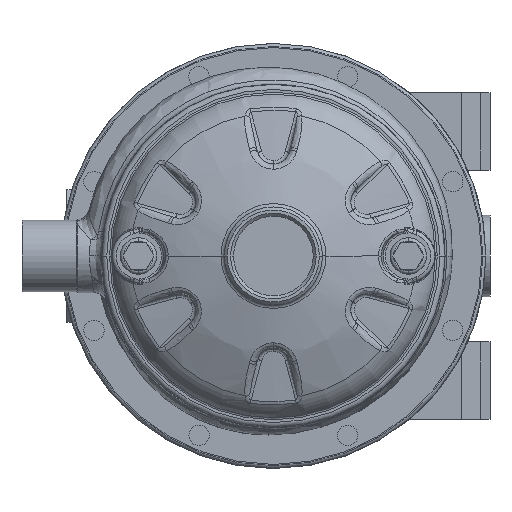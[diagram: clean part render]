
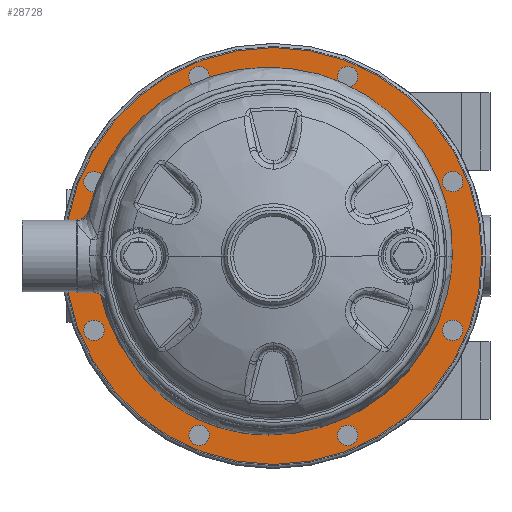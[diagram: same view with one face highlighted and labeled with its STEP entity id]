
A CAD part, left-side view. The second image highlights one B-rep face of the part: STEP entity #28728.
In plain terms, the highlighted planar face has unit normal (-1, 0, 0).
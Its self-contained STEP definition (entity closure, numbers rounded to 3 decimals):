
#20186=CARTESIAN_POINT('',(33.5,0.,
0.));
#20187=DIRECTION('',(1.,0.,0.));
#20188=DIRECTION('',(0.,-1.,0.));
#20189=AXIS2_PLACEMENT_3D('',#20186,#20187,#20188);
#20194=CARTESIAN_POINT('',(33.5,0.,
0.));
#20195=DIRECTION('',(1.,0.,0.));
#20196=DIRECTION('',(0.,1.,0.));
#20197=AXIS2_PLACEMENT_3D('',#20194,#20195,#20196);
#20202=CARTESIAN_POINT('',(33.5,0.,0.));
#20203=DIRECTION('',(-1.,0.,0.));
#20204=DIRECTION('',(0.,1.,0.));
#20205=AXIS2_PLACEMENT_3D('',#20202,#20203,#20204);
#20210=CARTESIAN_POINT('',(33.5,0.,0.));
#20211=DIRECTION('',(-1.,0.,0.));
#20212=DIRECTION('',(0.,-1.,0.));
#20213=AXIS2_PLACEMENT_3D('',#20210,#20211,#20212);
#20218=CARTESIAN_POINT('',(33.5,87.769,36.355));
#20219=DIRECTION('',(-1.,0.,0.));
#20220=DIRECTION('',(0.,0.,1.));
#20221=AXIS2_PLACEMENT_3D('',#20218,#20219,#20220);
#20226=CARTESIAN_POINT('',(33.5,87.769,36.355));
#20227=DIRECTION('',(-1.,0.,0.));
#20228=DIRECTION('',(0.,0.,-1.));
#20229=AXIS2_PLACEMENT_3D('',#20226,#20227,#20228);
#20234=CARTESIAN_POINT('',(33.5,36.355,87.769));
#20235=DIRECTION('',(-1.,0.,0.));
#20236=DIRECTION('',(0.,-0.707,0.707));
#20237=AXIS2_PLACEMENT_3D('',#20234,#20235,#20236);
#20242=CARTESIAN_POINT('',(33.5,36.355,87.769));
#20243=DIRECTION('',(-1.,0.,0.));
#20244=DIRECTION('',(0.,0.707,-0.707));
#20245=AXIS2_PLACEMENT_3D('',#20242,#20243,#20244);
#20250=CARTESIAN_POINT('',(33.5,-36.355,87.769));
#20251=DIRECTION('',(-1.,0.,0.));
#20252=DIRECTION('',(0.,-1.,0.));
#20253=AXIS2_PLACEMENT_3D('',#20250,#20251,#20252);
#20258=CARTESIAN_POINT('',(33.5,-36.355,87.769));
#20259=DIRECTION('',(-1.,0.,0.));
#20260=DIRECTION('',(0.,1.,0.));
#20261=AXIS2_PLACEMENT_3D('',#20258,#20259,#20260);
#20266=CARTESIAN_POINT('',(33.5,-87.769,36.355));
#20267=DIRECTION('',(-1.,0.,0.));
#20268=DIRECTION('',(0.,-0.707,-0.707));
#20269=AXIS2_PLACEMENT_3D('',#20266,#20267,#20268);
#20274=CARTESIAN_POINT('',(33.5,-87.769,36.355));
#20275=DIRECTION('',(-1.,0.,0.));
#20276=DIRECTION('',(0.,0.707,0.707));
#20277=AXIS2_PLACEMENT_3D('',#20274,#20275,#20276);
#20282=CARTESIAN_POINT('',(33.5,-87.769,-36.355));
#20283=DIRECTION('',(-1.,0.,0.));
#20284=DIRECTION('',(0.,0.,-1.));
#20285=AXIS2_PLACEMENT_3D('',#20282,#20283,#20284);
#20290=CARTESIAN_POINT('',(33.5,-87.769,-36.355));
#20291=DIRECTION('',(-1.,0.,0.));
#20292=DIRECTION('',(0.,0.,1.));
#20293=AXIS2_PLACEMENT_3D('',#20290,#20291,#20292);
#20298=CARTESIAN_POINT('',(33.5,-36.355,-87.769));
#20299=DIRECTION('',(-1.,0.,0.));
#20300=DIRECTION('',(0.,0.707,-0.707));
#20301=AXIS2_PLACEMENT_3D('',#20298,#20299,#20300);
#20306=CARTESIAN_POINT('',(33.5,-36.355,-87.769));
#20307=DIRECTION('',(-1.,0.,0.));
#20308=DIRECTION('',(0.,-0.707,0.707));
#20309=AXIS2_PLACEMENT_3D('',#20306,#20307,#20308);
#20314=CARTESIAN_POINT('',(33.5,36.355,-87.769));
#20315=DIRECTION('',(-1.,0.,0.));
#20316=DIRECTION('',(0.,1.,0.));
#20317=AXIS2_PLACEMENT_3D('',#20314,#20315,#20316);
#20322=CARTESIAN_POINT('',(33.5,36.355,-87.769));
#20323=DIRECTION('',(-1.,0.,0.));
#20324=DIRECTION('',(0.,-1.,0.));
#20325=AXIS2_PLACEMENT_3D('',#20322,#20323,#20324);
#20330=CARTESIAN_POINT('',(33.5,87.769,-36.355));
#20331=DIRECTION('',(-1.,0.,0.));
#20332=DIRECTION('',(0.,0.707,0.707));
#20333=AXIS2_PLACEMENT_3D('',#20330,#20331,#20332);
#20338=CARTESIAN_POINT('',(33.5,87.769,-36.355));
#20339=DIRECTION('',(-1.,0.,0.));
#20340=DIRECTION('',(0.,-0.707,-0.707));
#20341=AXIS2_PLACEMENT_3D('',#20338,#20339,#20340);
#27960=CARTESIAN_POINT('',(33.5,-86.8,
0.));
#27961=CARTESIAN_POINT('',(33.5,86.8,
0.));
#27962=VERTEX_POINT('',#27960);
#27963=VERTEX_POINT('',#27961);
#27964=CARTESIAN_POINT('',(33.5,102.,0.));
#27965=CARTESIAN_POINT('',(33.5,-102.,0.));
#27966=VERTEX_POINT('',#27964);
#27967=VERTEX_POINT('',#27965);
#27984=CARTESIAN_POINT('',(33.5,87.769,41.355));
#27985=CARTESIAN_POINT('',(33.5,87.769,31.355));
#27986=VERTEX_POINT('',#27984);
#27987=VERTEX_POINT('',#27985);
#28016=CARTESIAN_POINT('',(33.5,32.819,91.304));
#28017=VERTEX_POINT('',#28016);
#28018=CARTESIAN_POINT('',(33.5,39.89,84.233));
#28019=VERTEX_POINT('',#28018);
#28032=CARTESIAN_POINT('',(33.5,-41.355,87.769));
#28033=VERTEX_POINT('',#28032);
#28034=CARTESIAN_POINT('',(33.5,-31.355,87.769));
#28035=VERTEX_POINT('',#28034);
#28048=CARTESIAN_POINT('',(33.5,-91.304,32.819));
#28049=VERTEX_POINT('',#28048);
#28050=CARTESIAN_POINT('',(33.5,-84.233,39.89));
#28051=VERTEX_POINT('',#28050);
#28064=CARTESIAN_POINT('',(33.5,-87.769,-41.355));
#28065=VERTEX_POINT('',#28064);
#28066=CARTESIAN_POINT('',(33.5,-87.769,-31.355));
#28067=VERTEX_POINT('',#28066);
#28080=CARTESIAN_POINT('',(33.5,-32.819,-91.304));
#28081=VERTEX_POINT('',#28080);
#28082=CARTESIAN_POINT('',(33.5,-39.89,-84.233));
#28083=VERTEX_POINT('',#28082);
#28096=CARTESIAN_POINT('',(33.5,41.355,-87.769));
#28097=VERTEX_POINT('',#28096);
#28098=CARTESIAN_POINT('',(33.5,31.355,-87.769));
#28099=VERTEX_POINT('',#28098);
#28112=CARTESIAN_POINT('',(33.5,91.304,-32.819));
#28113=VERTEX_POINT('',#28112);
#28114=CARTESIAN_POINT('',(33.5,84.233,-39.89));
#28115=VERTEX_POINT('',#28114);
#28664=CARTESIAN_POINT('',(33.5,0.,0.));
#28665=DIRECTION('',(1.,0.,0.));
#28666=DIRECTION('',(0.,-1.,0.));
#28667=AXIS2_PLACEMENT_3D('',#28664,#28665,#28666);
#28668=PLANE('',#28667);
#28670=ORIENTED_EDGE('',*,*,#28669,.F.);
#28671=ORIENTED_EDGE('',*,*,#28654,.F.);
#28672=EDGE_LOOP('',(#28670,#28671));
#28673=FACE_OUTER_BOUND('',#28672,.F.);
#28675=ORIENTED_EDGE('',*,*,#28674,.F.);
#28677=ORIENTED_EDGE('',*,*,#28676,.F.);
#28678=EDGE_LOOP('',(#28675,#28677));
#28679=FACE_BOUND('',#28678,.F.);
#28681=ORIENTED_EDGE('',*,*,#28680,.T.);
#28683=ORIENTED_EDGE('',*,*,#28682,.T.);
#28684=EDGE_LOOP('',(#28681,#28683));
#28685=FACE_BOUND('',#28684,.F.);
#28687=ORIENTED_EDGE('',*,*,#28686,.T.);
#28689=ORIENTED_EDGE('',*,*,#28688,.T.);
#28690=EDGE_LOOP('',(#28687,#28689));
#28691=FACE_BOUND('',#28690,.F.);
#28693=ORIENTED_EDGE('',*,*,#28692,.T.);
#28695=ORIENTED_EDGE('',*,*,#28694,.T.);
#28696=EDGE_LOOP('',(#28693,#28695));
#28697=FACE_BOUND('',#28696,.F.);
#28699=ORIENTED_EDGE('',*,*,#28698,.T.);
#28701=ORIENTED_EDGE('',*,*,#28700,.T.);
#28702=EDGE_LOOP('',(#28699,#28701));
#28703=FACE_BOUND('',#28702,.F.);
#28705=ORIENTED_EDGE('',*,*,#28704,.T.);
#28707=ORIENTED_EDGE('',*,*,#28706,.T.);
#28708=EDGE_LOOP('',(#28705,#28707));
#28709=FACE_BOUND('',#28708,.F.);
#28711=ORIENTED_EDGE('',*,*,#28710,.T.);
#28713=ORIENTED_EDGE('',*,*,#28712,.T.);
#28714=EDGE_LOOP('',(#28711,#28713));
#28715=FACE_BOUND('',#28714,.F.);
#28717=ORIENTED_EDGE('',*,*,#28716,.T.);
#28719=ORIENTED_EDGE('',*,*,#28718,.T.);
#28720=EDGE_LOOP('',(#28717,#28719));
#28721=FACE_BOUND('',#28720,.F.);
#28723=ORIENTED_EDGE('',*,*,#28722,.T.);
#28725=ORIENTED_EDGE('',*,*,#28724,.T.);
#28726=EDGE_LOOP('',(#28723,#28725));
#28727=FACE_BOUND('',#28726,.F.);
#20190=CIRCLE('',#20189,86.8);
#20198=CIRCLE('',#20197,86.8);
#20206=CIRCLE('',#20205,102.);
#20214=CIRCLE('',#20213,102.);
#20222=CIRCLE('',#20221,5.);
#20230=CIRCLE('',#20229,5.);
#20238=CIRCLE('',#20237,5.);
#20246=CIRCLE('',#20245,5.);
#20254=CIRCLE('',#20253,5.);
#20262=CIRCLE('',#20261,5.);
#20270=CIRCLE('',#20269,5.);
#20278=CIRCLE('',#20277,5.);
#20286=CIRCLE('',#20285,5.);
#20294=CIRCLE('',#20293,5.);
#20302=CIRCLE('',#20301,5.);
#20310=CIRCLE('',#20309,5.);
#20318=CIRCLE('',#20317,5.);
#20326=CIRCLE('',#20325,5.);
#20334=CIRCLE('',#20333,5.);
#20342=CIRCLE('',#20341,5.);
#28654=EDGE_CURVE('',#27967,#27966,#20214,.T.);
#28669=EDGE_CURVE('',#27966,#27967,#20206,.T.);
#28674=EDGE_CURVE('',#27962,#27963,#20190,.T.);
#28676=EDGE_CURVE('',#27963,#27962,#20198,.T.);
#28680=EDGE_CURVE('',#27986,#27987,#20222,.T.);
#28682=EDGE_CURVE('',#27987,#27986,#20230,.T.);
#28686=EDGE_CURVE('',#28017,#28019,#20238,.T.);
#28688=EDGE_CURVE('',#28019,#28017,#20246,.T.);
#28692=EDGE_CURVE('',#28033,#28035,#20254,.T.);
#28694=EDGE_CURVE('',#28035,#28033,#20262,.T.);
#28698=EDGE_CURVE('',#28049,#28051,#20270,.T.);
#28700=EDGE_CURVE('',#28051,#28049,#20278,.T.);
#28704=EDGE_CURVE('',#28065,#28067,#20286,.T.);
#28706=EDGE_CURVE('',#28067,#28065,#20294,.T.);
#28710=EDGE_CURVE('',#28081,#28083,#20302,.T.);
#28712=EDGE_CURVE('',#28083,#28081,#20310,.T.);
#28716=EDGE_CURVE('',#28097,#28099,#20318,.T.);
#28718=EDGE_CURVE('',#28099,#28097,#20326,.T.);
#28722=EDGE_CURVE('',#28113,#28115,#20334,.T.);
#28724=EDGE_CURVE('',#28115,#28113,#20342,.T.);
#28728=ADVANCED_FACE('',(#28673,#28679,#28685,#28691,#28697,#28703,#28709,
#28715,#28721,#28727),#28668,.F.);
